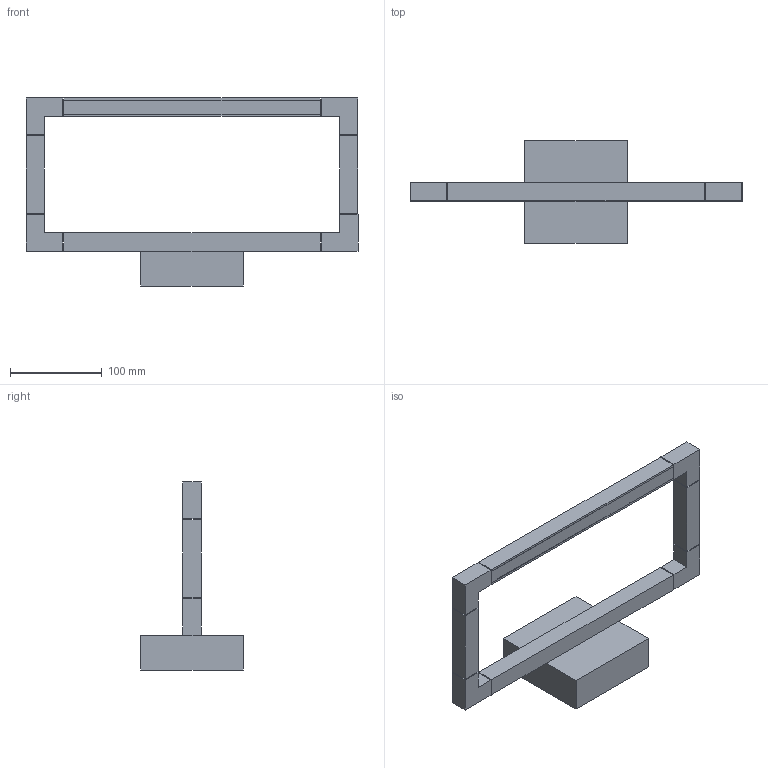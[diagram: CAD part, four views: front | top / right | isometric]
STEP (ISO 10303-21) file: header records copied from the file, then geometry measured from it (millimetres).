
FILE_DESCRIPTION (( 'STEP AP214' ), '1' );
FILE_NAME ('3D_SPIGOLO_WALL.STEP', '2018-03-15T16:20:17', ( 'Utente' ), ( '' ), 'SwSTEP 2.0', 'SolidWorks 2016', '' );
FILE_SCHEMA (( 'AUTOMOTIVE_DESIGN' ));
Length unit declared in the file: millimetre
Products named in the file (3): schermo truMARTIMM-1^3D_SPIGOLO_WALL; Group1^3D_SPIGOLO_WALL; 3D_SPIGOLO_WALL
Assembly tree (2 placements, depth 2):
  3D_SPIGOLO_WALL
    Group1^3D_SPIGOLO_WALL
    schermo truMARTIMM-1^3D_SPIGOLO_WALL
Bounding box: 362 x 112 x 205 mm (x, y, z)
Volume: 869110 mm3; surface area: 134243 mm2
Topology: 9 solids, 9 shells, 84 faces, 194 edges, 128 vertices
Faces by surface type: plane 84
Entity records: 2576 total; most frequent: CARTESIAN_POINT 411, ORIENTED_EDGE 388, DIRECTION 372, LINE 194, EDGE_CURVE 194, VECTOR 194, VERTEX_POINT 128, AXIS2_PLACEMENT_3D 89
